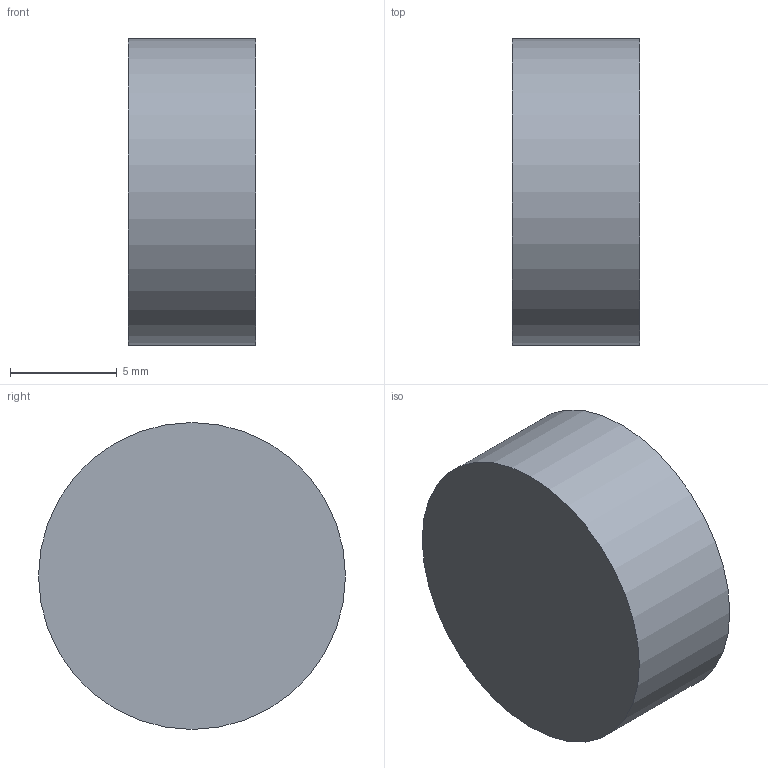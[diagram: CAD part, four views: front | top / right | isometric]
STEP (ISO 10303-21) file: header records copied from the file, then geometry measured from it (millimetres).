
FILE_DESCRIPTION(('Open CASCADE Model'),'2;1');
FILE_NAME('Open CASCADE Shape Model','2026-11-02T23:22:37',('Author'),( 'Open CASCADE'),'Open CASCADE STEP processor 7.9','Open CASCADE 7.9' ,'Unknown');
FILE_SCHEMA(('AUTOMOTIVE_DESIGN { 1 0 10303 214 1 1 1 1 }'));
Length unit declared in the file: millimetre
Products named in the file (1): Open CASCADE STEP translator 7.9 1
Bounding box: 6 x 14.4 x 14.4 mm (x, y, z)
Volume: 977.2 mm3; surface area: 597.2 mm2
Topology: 1 solids, 1 shells, 3 faces, 3 edges, 2 vertices
Faces by surface type: plane 2, cylinder 1
Full cylindrical faces by diameter (mm): 14.4 x1
Entity records: 108 total; most frequent: DIRECTION 19, CARTESIAN_POINT 15, AXIS2_PLACEMENT_3D 6, ORIENTED_EDGE 6, PCURVE 6, DEFINITIONAL_REPRESENTATION 6, LINE 5, VECTOR 5
